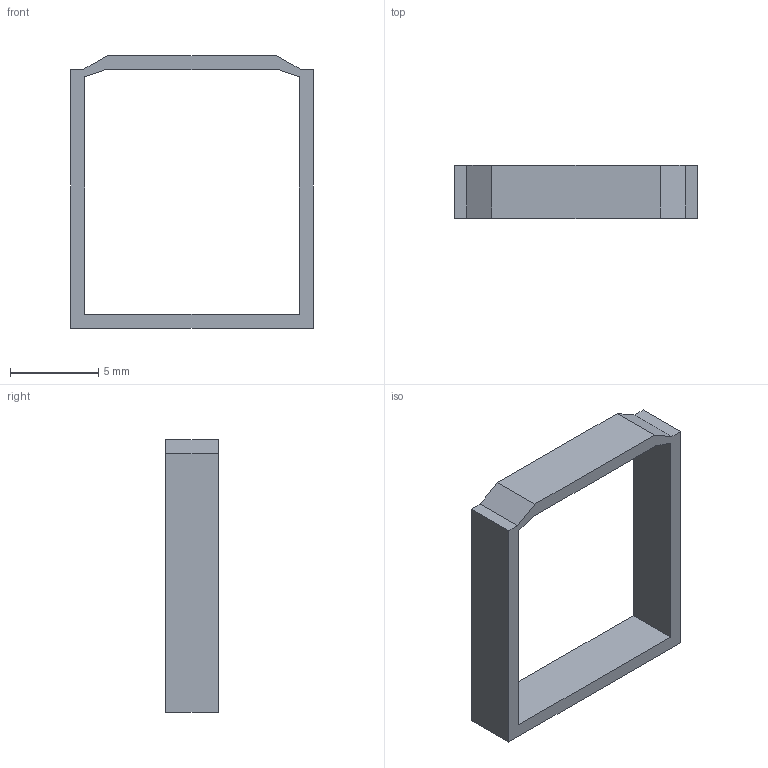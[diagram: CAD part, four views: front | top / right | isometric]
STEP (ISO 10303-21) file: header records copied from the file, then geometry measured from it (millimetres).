
FILE_DESCRIPTION(/* description */ (''),/* implementation_level */ '2;1');
FILE_NAME(/* name */ 'REF_nylon_retaining_loop_envelope.step',/* time_stamp */ '2026-11-14T21:40:02-08:00',/* author */ (''),/* organization */ (''),/* preprocessor_version */ 'ST-DEVELOPER v20.2',/* originating_system */ 'Autodesk Translation Framework v15.17.0.0',/* authorisation */ '');
FILE_SCHEMA (('AUTOMOTIVE_DESIGN { 1 0 10303 214 3 1 1 }'));
Length unit declared in the file: millimetre
Products named in the file (1): 2026-11-14-21-40-02-527
Bounding box: 13.8 x 3 x 15.5 mm (x, y, z)
Volume: 127.7 mm3; surface area: 412 mm2
Topology: 1 solids, 1 shells, 16 faces, 42 edges, 28 vertices
Faces by surface type: plane 16
Entity records: 523 total; most frequent: CARTESIAN_POINT 87, ORIENTED_EDGE 84, DIRECTION 76, LINE 42, VECTOR 42, EDGE_CURVE 42, VERTEX_POINT 28, EDGE_LOOP 18
